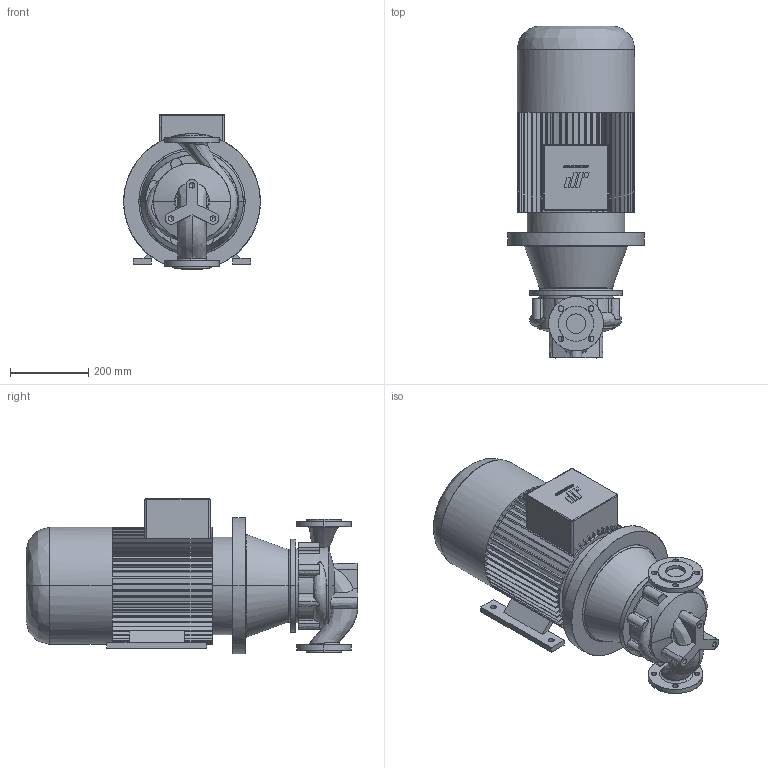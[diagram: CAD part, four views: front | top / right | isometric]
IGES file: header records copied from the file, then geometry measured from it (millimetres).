
Start section: CombiLine
Global section: file name: CLB_50-160_IEC160M.igs; native system:  By UGS Corp.; preprocessor: XPlus GENERIC/IGES 3.0; author: Stageplaats; organization: Johnson Pump Water B.V.; date: 20070713.130815; units: millimetre
Bounding box: 350 x 850.5 x 399.61 mm (x, y, z)
Surface area: 1540836.9 mm2 (no closed solid volume)
Topology: 0 solids, 0 shells, 580 faces, 3516 edges, 3510 vertices
Faces by surface type: bspline 580
